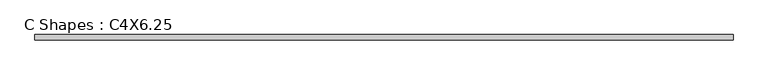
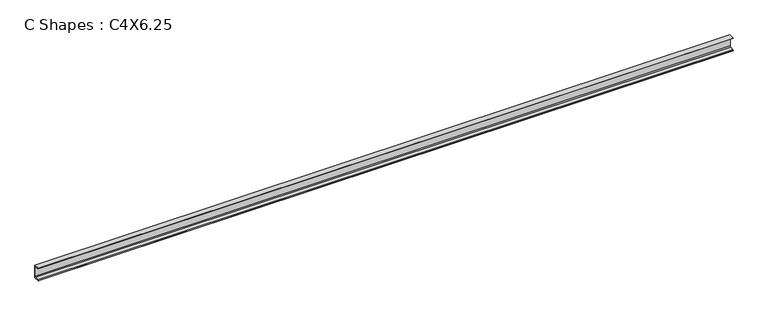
"""IFC4 building model written with IfcOpenShell, lengths in millimetres: beam geometry, C Shapes : C4X6.25."""

from ifc_helpers import new_model, si_unit, point, frame, frame_2d, origin, place, context, project, spatial, polyline, circle_curve, trimmed, segment, composite_curve, outline, extrude, source, transform, mapped, element, save


def c_shapes_c4x6_25_463d63b2(model_context):
    return source(origin(), model_context, "Body", "SweptSolid", [
        extrude(outline(composite_curve([segment(polyline([(11.049, 50.8), (11.049, -50.8), (-30.861, -50.8), (-30.861, -49.7865772)]), True, "CONTINUOUS"), segment(trimmed(circle_curve(frame_2d((-27.4066, -49.7865772)), 3.4544), [point((-30.861, -49.7865772))], [point((-27.9743618, -46.379155))], False, "CARTESIAN"), True, "CONTINUOUS"), segment(polyline([(-27.9743618, -46.379155), (-0.9980765, -41.8842311)]), True, "CONTINUOUS"), segment(trimmed(circle_curve(frame_2d((-2.1336, -35.0693868)), 6.9088), [point((-0.9980765, -41.8842311))], [point((4.7752, -35.0693868))], True, "CARTESIAN"), True, "CONTINUOUS"), segment(polyline([(4.7752, -35.0693868), (4.7752, 35.0693868)]), True, "CONTINUOUS"), segment(trimmed(circle_curve(frame_2d((-2.1336, 35.0693868)), 6.9088), [point((4.7752, 35.0693868))], [point((-0.9980765, 41.8842311))], True, "CARTESIAN"), True, "CONTINUOUS"), segment(polyline([(-0.9980765, 41.8842311), (-27.9743618, 46.379155)]), True, "CONTINUOUS"), segment(trimmed(circle_curve(frame_2d((-27.4066, 49.7865772)), 3.4544), [point((-27.9743618, 46.379155))], [point((-30.861, 49.7865772))], False, "CARTESIAN"), True, "CONTINUOUS"), segment(polyline([(-30.861, 49.7865772), (-30.861, 50.8), (11.049, 50.8)]), True, "CONTINUOUS")], self_intersect=False)), frame((-2665.4941428, 0.0, 0.0), z_axis=(1.0, 0.0, 0.0), x_axis=(0.0, 1.0, 0.0)), (0.0, 0.0, 1.0), 5330.9882857),
    ])


if __name__ == "__main__":
    model = new_model("IFC4")
    model_context = context("Model", 3, world=origin())
    ifc_project = project(units=[si_unit("LENGTHUNIT", "METRE", prefix="MILLI")], contexts=[model_context])
    site = spatial("IfcSite", under=ifc_project)
    building = spatial("IfcBuilding", under=site)
    placement = place(None, origin())
    c_shapes_c4x6_25_shape = c_shapes_c4x6_25_463d63b2(model_context)
    element("IfcBeam", 1, ObjectType="C Shapes : C4X6.25", at=placement, inside=building, context=model_context, shape_type="MappedRepresentation", body=[
        mapped(c_shapes_c4x6_25_shape, transform((0.0, 0.0, 0.0), x_axis=(1.0, 0.0, 0.0), y_axis=(0.0, 1.0, 0.0), z_axis=(0.0, 0.0, 1.0))),
    ])
    save(model, "model.ifc")
